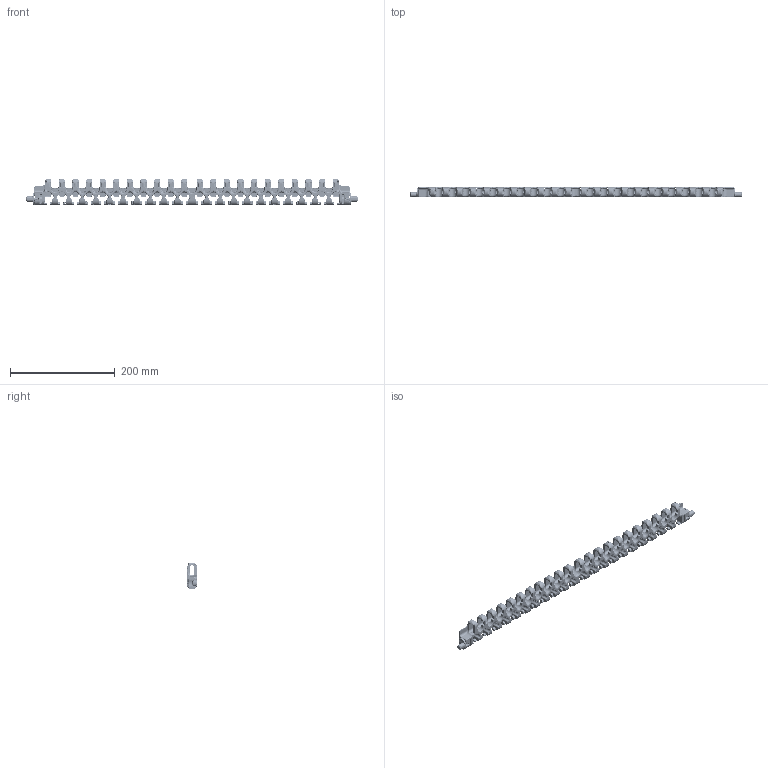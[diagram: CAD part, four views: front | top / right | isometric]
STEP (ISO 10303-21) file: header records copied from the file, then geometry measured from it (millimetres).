
FILE_DESCRIPTION (( 'STEP AP214' ), '1' );
FILE_NAME ('F2-2400-TAPIS.STEP', '2011-04-14T11:31:12', ( '.' ), ( '' ), 'SwSTEP 2.0', 'SolidWorks 2010', '' );
FILE_SCHEMA (( 'AUTOMOTIVE_DESIGN' ));
Length unit declared in the file: millimetre
Products named in the file (1): F2-2400-TAPIS
Bounding box: 634.98 x 19.05 x 51 mm (x, y, z)
Surface area: 94623.3 mm2 (no closed solid volume)
Topology: 0 solids, 3 shells, 5070 faces, 14887 edges, 9157 vertices
Faces by surface type: bspline 2301, cylinder 2035, plane 688, torus 46
Entity records: 404564 total; most frequent: CARTESIAN_POINT 240822, ORIENTED_EDGE 25755, DIRECTION 16944, EDGE_CURVE 14752, VERTEX_POINT 9157, AXIS2_PLACEMENT_3D 6505, B_SPLINE_CURVE_WITH_KNOTS 5184, EDGE_LOOP 5098
